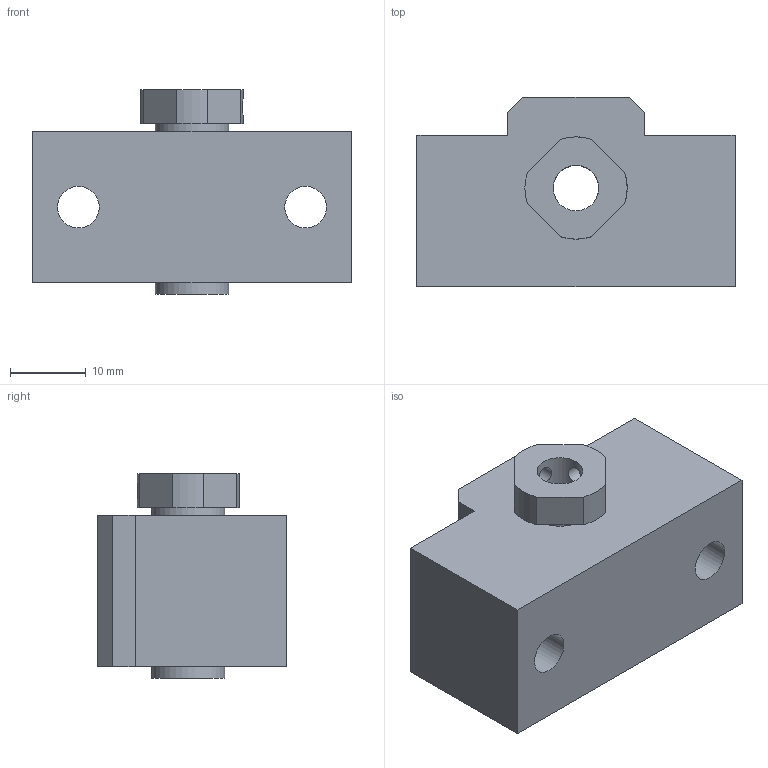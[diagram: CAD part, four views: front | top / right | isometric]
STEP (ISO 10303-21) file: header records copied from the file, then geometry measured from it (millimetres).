
FILE_DESCRIPTION(/* description */ (''),/* implementation_level */ '2;1');
FILE_NAME(/* name */ 'C:\Users\tenki620635\Desktop\官網\圖面\軸承座\3D\setp檔\EK06.stp',/* time_stamp */ '2020-12-18T19:18:22+08:00',/* author */ ('tenki620635'),/* organization */ (''),/* preprocessor_version */ 'ST-DEVELOPER v15.2',/* originating_system */ 'Autodesk Inventor 2014',/* authorisation */ '');
FILE_SCHEMA (('AUTOMOTIVE_DESIGN { 1 0 10303 214 3 1 1 }'));
Length unit declared in the file: millimetre
Products named in the file (1): EK06
Bounding box: 42 x 25 x 27 mm (x, y, z)
Volume: 16466.1 mm3; surface area: 6263.3 mm2
Topology: 1 solids, 1 shells, 36 faces, 90 edges, 61 vertices
Faces by surface type: plane 22, cylinder 14
Full cylindrical faces by diameter (mm): 2.459 x2, 5.5 x2, 6 x1, 9.5 x2, 9.7 x2, 14 x1
Entity records: 1165 total; most frequent: CARTESIAN_POINT 307, DIRECTION 168, ORIENTED_EDGE 152, EDGE_CURVE 76, EDGE_LOOP 62, AXIS2_PLACEMENT_3D 61, VERTEX_POINT 58, LINE 46
